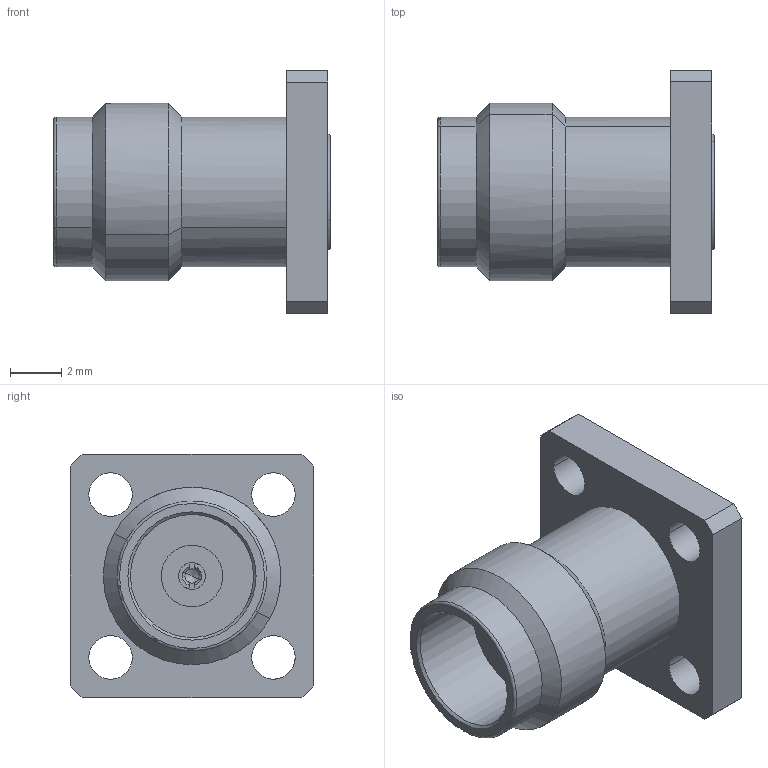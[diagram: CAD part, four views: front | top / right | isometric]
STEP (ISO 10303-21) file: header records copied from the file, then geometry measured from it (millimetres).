
FILE_DESCRIPTION(('CATIA V5 STEP Exchange'),'2;1');
FILE_NAME('F:\Work SZ\CMP 图纸\Precision Coaxial Connector\2.4mm\97-02-9F5-002\97-02-9F5-002(REV.A).stp','2013-08-08T08:50:25+00:00',('none'),('none'),'CATIA Version 5 Release 17 (IN-10)','CATIA V5 STEP AP203','none');
FILE_SCHEMA(('CONFIG_CONTROL_DESIGN'));
Length unit declared in the file: millimetre
Products named in the file (1): 97-02-9F5-002
Bounding box: 10.8 x 9.5 x 9.5 mm (x, y, z)
Volume: 338.7 mm3; surface area: 535 mm2
Topology: 1 solids, 1 shells, 78 faces, 203 edges, 130 vertices
Faces by surface type: cylinder 32, plane 27, cone 17, torus 2
Entity records: 2953 total; most frequent: CARTESIAN_POINT 1184, ORIENTED_EDGE 398, DIRECTION 265, EDGE_CURVE 199, VERTEX_POINT 130, AXIS2_PLACEMENT_3D 104, VECTOR 97, LINE 97
